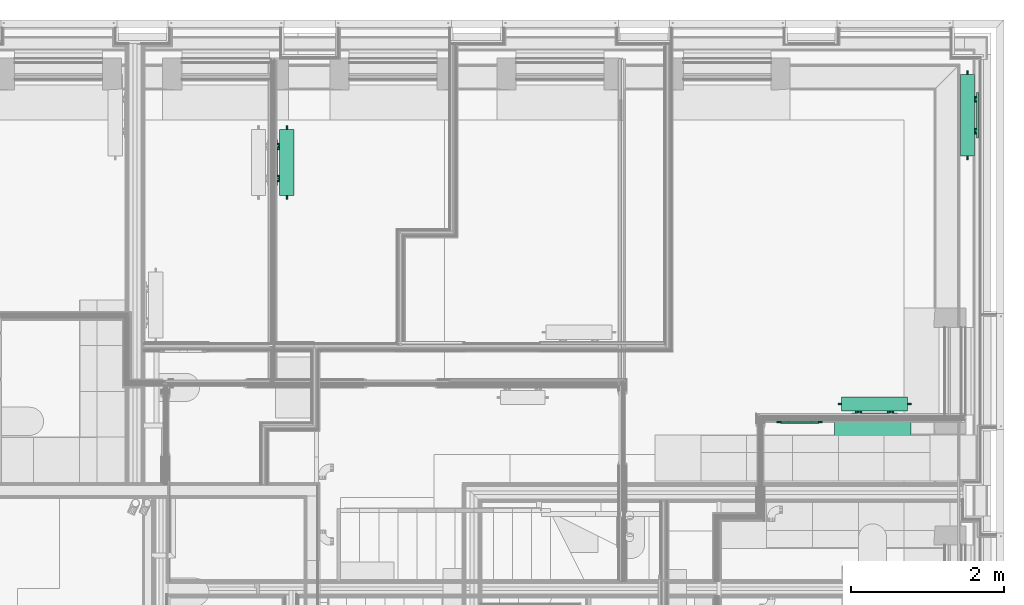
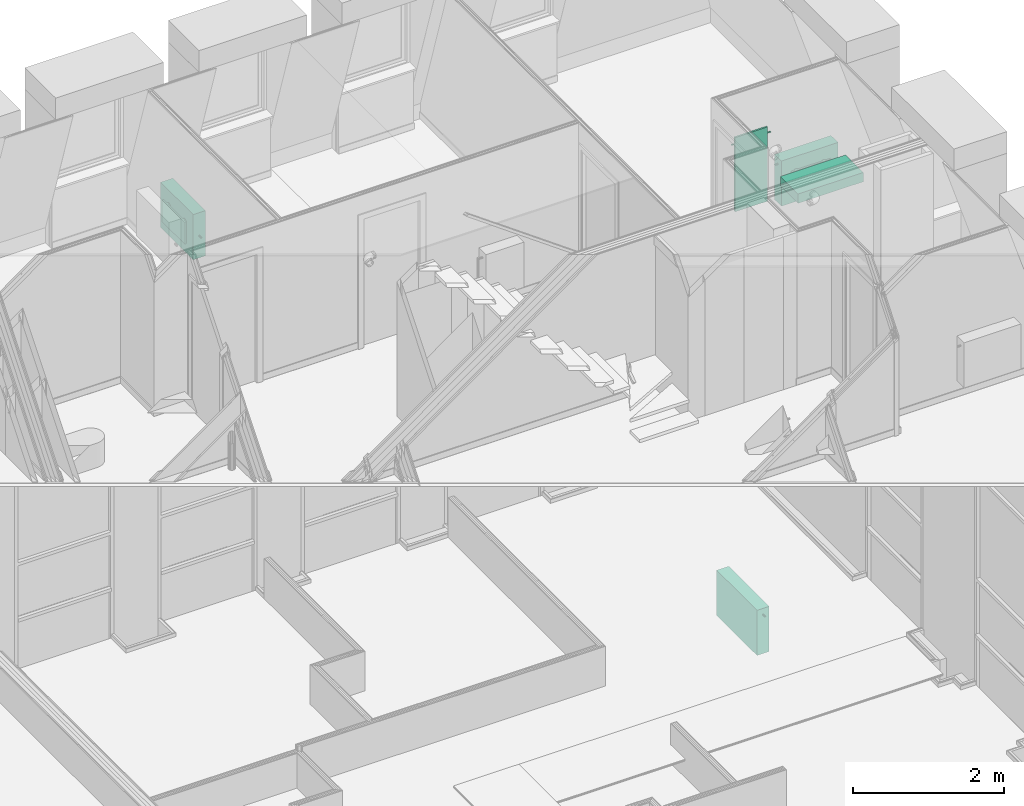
# One storey, part 154 of 169: 5 flow terminals.
"""IFC2X3 building model written with IfcOpenShell, lengths in metres."""

from ifc_helpers import new_model, entity, si_unit, converted_unit, derived_unit, money_unit, direction, frame, origin_with_axes, place, context, subcontext, project, spatial, open_shell, faceted_brep, surface_model, material, type_object, element, save


model = new_model("IFC2X3")

# Units and contexts
model_context = context("Model", 3, precision=1e-05, world=origin_with_axes(), true_north=direction((0.0, 1.0)))
body_context = subcontext(model_context, "Body", "Model", "MODEL_VIEW", scale=1.0)
ifc_project = project(units=[si_unit("LENGTHUNIT", "METRE"), si_unit("AREAUNIT", "SQUARE_METRE"), si_unit("VOLUMEUNIT", "CUBIC_METRE"), si_unit("ABSORBEDDOSEUNIT", "GRAY"), si_unit("AMOUNTOFSUBSTANCEUNIT", "MOLE"), si_unit("DOSEEQUIVALENTUNIT", "SIEVERT"), si_unit("ELECTRICCAPACITANCEUNIT", "FARAD"), si_unit("ELECTRICCHARGEUNIT", "COULOMB"), si_unit("ELECTRICCONDUCTANCEUNIT", "SIEMENS"), si_unit("ELECTRICCURRENTUNIT", "AMPERE"), si_unit("ELECTRICRESISTANCEUNIT", "OHM"), si_unit("ELECTRICVOLTAGEUNIT", "VOLT"), si_unit("ENERGYUNIT", "JOULE"), si_unit("FORCEUNIT", "NEWTON"), si_unit("FREQUENCYUNIT", "HERTZ"), si_unit("ILLUMINANCEUNIT", "LUX"), si_unit("INDUCTANCEUNIT", "HENRY"), si_unit("LUMINOUSFLUXUNIT", "LUMEN"), si_unit("LUMINOUSINTENSITYUNIT", "CANDELA"), si_unit("MAGNETICFLUXDENSITYUNIT", "TESLA"), si_unit("MAGNETICFLUXUNIT", "WEBER"), si_unit("MASSUNIT", "GRAM"), converted_unit("PLANEANGLEUNIT", "degree", entity("IfcReal", 0.0174532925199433), si_unit("PLANEANGLEUNIT", "RADIAN"), dimensions=[0, 0, 0, 0, 0, 0, 0]), si_unit("POWERUNIT", "WATT"), si_unit("PRESSUREUNIT", "PASCAL"), si_unit("RADIOACTIVITYUNIT", "BECQUEREL"), si_unit("SOLIDANGLEUNIT", "STERADIAN"), si_unit("THERMODYNAMICTEMPERATUREUNIT", "KELVIN"), si_unit("TIMEUNIT", "SECOND"), derived_unit("ACCELERATIONUNIT", [(si_unit("LENGTHUNIT", "METRE"), 1), (si_unit("TIMEUNIT", "SECOND"), -2)]), derived_unit("ANGULARVELOCITYUNIT", [(converted_unit("PLANEANGLEUNIT", "degree", entity("IfcReal", 0.0174532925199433), si_unit("PLANEANGLEUNIT", "RADIAN"), dimensions=[0, 0, 0, 0, 0, 0, 0]), 1), (si_unit("TIMEUNIT", "SECOND"), -1)]), derived_unit("CURVATUREUNIT", [(converted_unit("PLANEANGLEUNIT", "degree", entity("IfcReal", 0.0174532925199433), si_unit("PLANEANGLEUNIT", "RADIAN"), dimensions=[0, 0, 0, 0, 0, 0, 0]), 1), (si_unit("LENGTHUNIT", "METRE"), -1)]), derived_unit("DYNAMICVISCOSITYUNIT", [(si_unit("PRESSUREUNIT", "PASCAL"), 1), (si_unit("TIMEUNIT", "SECOND"), 1)]), derived_unit("HEATFLUXDENSITYUNIT", [(si_unit("POWERUNIT", "WATT"), 1), (si_unit("LENGTHUNIT", "METRE"), -2)]), derived_unit("HEATINGVALUEUNIT", [(si_unit("ENERGYUNIT", "JOULE"), 1), (si_unit("MASSUNIT", "GRAM"), -1)]), derived_unit("INTEGERCOUNTRATEUNIT", [(si_unit("TIMEUNIT", "SECOND"), -1)]), derived_unit("IONCONCENTRATIONUNIT", [(si_unit("MASSUNIT", "GRAM"), 1), (si_unit("VOLUMEUNIT", "CUBIC_METRE"), -1)]), derived_unit("ISOTHERMALMOISTURECAPACITYUNIT", [(si_unit("VOLUMEUNIT", "CUBIC_METRE"), 1), (si_unit("MASSUNIT", "GRAM"), -1)]), derived_unit("KINEMATICVISCOSITYUNIT", [(si_unit("AREAUNIT", "SQUARE_METRE"), 1), (si_unit("TIMEUNIT", "SECOND"), -1)]), derived_unit("LINEARFORCEUNIT", [(si_unit("FORCEUNIT", "NEWTON"), 1), (si_unit("LENGTHUNIT", "METRE"), -1)]), derived_unit("LINEARMOMENTUNIT", [(si_unit("FORCEUNIT", "NEWTON"), 1), (si_unit("LENGTHUNIT", "METRE"), -1)]), derived_unit("LINEARSTIFFNESSUNIT", [(si_unit("FORCEUNIT", "NEWTON"), 1), (si_unit("LENGTHUNIT", "METRE"), -1)]), derived_unit("LINEARVELOCITYUNIT", [(si_unit("LENGTHUNIT", "METRE"), 1), (si_unit("TIMEUNIT", "SECOND"), -1)]), derived_unit("LUMINOUSINTENSITYDISTRIBUTIONUNIT", [(si_unit("LUMINOUSINTENSITYUNIT", "CANDELA"), 1), (si_unit("LUMINOUSFLUXUNIT", "LUMEN"), -1)]), derived_unit("MASSDENSITYUNIT", [(si_unit("MASSUNIT", "GRAM"), 1), (si_unit("VOLUMEUNIT", "CUBIC_METRE"), -1)]), derived_unit("MASSFLOWRATEUNIT", [(si_unit("MASSUNIT", "GRAM"), 1), (si_unit("TIMEUNIT", "SECOND"), -1)]), derived_unit("MASSPERLENGTHUNIT", [(si_unit("MASSUNIT", "GRAM"), 1), (si_unit("LENGTHUNIT", "METRE"), -1)]), derived_unit("MODULUSOFELASTICITYUNIT", [(si_unit("FORCEUNIT", "NEWTON"), 1), (si_unit("AREAUNIT", "SQUARE_METRE"), -1)]), derived_unit("MODULUSOFLINEARSUBGRADEREACTIONUNIT", [(si_unit("FORCEUNIT", "NEWTON"), 1), (si_unit("LENGTHUNIT", "METRE"), -2)]), derived_unit("MODULUSOFROTATIONALSUBGRADEREACTIONUNIT", [(si_unit("FORCEUNIT", "NEWTON"), 1), (si_unit("LENGTHUNIT", "METRE"), 1)]), derived_unit("MODULUSOFSUBGRADEREACTIONUNIT", [(si_unit("FORCEUNIT", "NEWTON"), 1), (si_unit("VOLUMEUNIT", "CUBIC_METRE"), -1)]), derived_unit("MOISTUREDIFFUSIVITYUNIT", [(si_unit("VOLUMEUNIT", "CUBIC_METRE"), 1), (si_unit("TIMEUNIT", "SECOND"), -1)]), derived_unit("MOLECULARWEIGHTUNIT", [(si_unit("MASSUNIT", "GRAM"), 1), (si_unit("AMOUNTOFSUBSTANCEUNIT", "MOLE"), -1)]), derived_unit("PLANARFORCEUNIT", [(si_unit("FORCEUNIT", "NEWTON"), 1), (si_unit("LENGTHUNIT", "METRE"), -2)]), derived_unit("ROTATIONALFREQUENCYUNIT", [(si_unit("TIMEUNIT", "SECOND"), -1)]), derived_unit("ROTATIONALMASSUNIT", [(si_unit("MASSUNIT", "GRAM"), 1), (si_unit("LENGTHUNIT", "METRE"), 2)]), derived_unit("ROTATIONALSTIFFNESSUNIT", [(si_unit("FORCEUNIT", "NEWTON"), 1), (si_unit("LENGTHUNIT", "METRE"), 1), (converted_unit("PLANEANGLEUNIT", "degree", entity("IfcReal", 0.0174532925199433), si_unit("PLANEANGLEUNIT", "RADIAN"), dimensions=[0, 0, 0, 0, 0, 0, 0]), -1)]), derived_unit("SECTIONAREAINTEGRALUNIT", [(si_unit("LENGTHUNIT", "METRE"), 5)]), derived_unit("SECTIONMODULUSUNIT", [(si_unit("LENGTHUNIT", "METRE"), 3)]), derived_unit("SHEARMODULUSUNIT", [(si_unit("FORCEUNIT", "NEWTON"), 1), (si_unit("AREAUNIT", "SQUARE_METRE"), -1)]), derived_unit("SOUNDPOWERUNIT", [(si_unit("ENERGYUNIT", "JOULE"), 1), (si_unit("TIMEUNIT", "SECOND"), -1)]), derived_unit("SPECIFICHEATCAPACITYUNIT", [(si_unit("FORCEUNIT", "NEWTON"), 1), (si_unit("MASSUNIT", "GRAM"), -1), (si_unit("THERMODYNAMICTEMPERATUREUNIT", "KELVIN"), -1)]), derived_unit("TEMPERATUREGRADIENTUNIT", [(si_unit("THERMODYNAMICTEMPERATUREUNIT", "KELVIN"), 1), (si_unit("LENGTHUNIT", "METRE"), -1)]), derived_unit("THERMALADMITTANCEUNIT", [(si_unit("POWERUNIT", "WATT"), 1), (si_unit("AREAUNIT", "SQUARE_METRE"), -1), (si_unit("THERMODYNAMICTEMPERATUREUNIT", "KELVIN"), -1)]), derived_unit("THERMALCONDUCTANCEUNIT", [(si_unit("POWERUNIT", "WATT"), 1), (si_unit("LENGTHUNIT", "METRE"), -1), (si_unit("THERMODYNAMICTEMPERATUREUNIT", "KELVIN"), -1)]), derived_unit("THERMALEXPANSIONCOEFFICIENTUNIT", [(si_unit("THERMODYNAMICTEMPERATUREUNIT", "KELVIN"), -1)]), derived_unit("THERMALRESISTANCEUNIT", [(si_unit("AREAUNIT", "SQUARE_METRE"), 1), (si_unit("POWERUNIT", "WATT"), -1)]), derived_unit("THERMALTRANSMITTANCEUNIT", [(si_unit("POWERUNIT", "WATT"), 1), (si_unit("AREAUNIT", "SQUARE_METRE"), -1), (si_unit("THERMODYNAMICTEMPERATUREUNIT", "KELVIN"), -1)]), derived_unit("TORQUEUNIT", [(si_unit("FORCEUNIT", "NEWTON"), 1), (si_unit("LENGTHUNIT", "METRE"), 1)]), derived_unit("VAPORPERMEABILITYUNIT", [(si_unit("MASSUNIT", "GRAM"), 1), (si_unit("TIMEUNIT", "SECOND"), -1)]), derived_unit("VOLUMETRICFLOWRATEUNIT", [(si_unit("VOLUMEUNIT", "CUBIC_METRE"), 1), (si_unit("TIMEUNIT", "SECOND"), -1)]), derived_unit("WARPINGCONSTANTUNIT", [(si_unit("LENGTHUNIT", "METRE"), 6)]), derived_unit("WARPINGMOMENTUNIT", [(si_unit("FORCEUNIT", "NEWTON"), 1), (si_unit("LENGTHUNIT", "METRE"), 2)]), money_unit("GBP")], contexts=[model_context])

# Site, building, storey, space
site_placement = place(None, origin_with_axes())
site = spatial("IfcSite", under=ifc_project, at=site_placement, Name="Site", CompositionType="ELEMENT")
building_placement = place(site_placement, origin_with_axes())
building = spatial("IfcBuilding", under=site, at=building_placement, Name="Building01", CompositionType="ELEMENT")
storey_placement = place(building_placement, frame((0.0, 0.0, 5.15), z_axis=(0.0, 0.0, 1.0), x_axis=(1.0, 0.0, 0.0)))
storey = spatial("IfcBuildingStorey", under=building, at=storey_placement, Name="1F", CompositionType="ELEMENT", Elevation=5.15)
space_1_placement = place(storey_placement, frame((22.624794, 8.82, 0.017975), z_axis=(0.0, 0.0, 1.0), x_axis=(1.0, 0.0, 0.0)))
space_1 = spatial("IfcSpace", under=storey, at=space_1_placement, Name="k/d/l", CompositionType="ELEMENT", InteriorOrExteriorSpace="NOTDEFINED")

# Flow terminal
ifc_material = material(Name="M_BSUK_Ventilation")
space_heater_type_1 = type_object("IfcSpaceHeaterType", Name="M-BmvRadiatorpanel-Panel", PredefinedType="NOTDEFINED")
flow_terminal_1_placement = place(storey_placement, frame((26.50175, 14.187, 0.665), z_axis=(0.0, 0.0, 1.0), x_axis=(0.0, -1.0, 0.0)))
element("IfcFlowTerminal", 1, at=flow_terminal_1_placement, inside=space_1, type_object=space_heater_type_1, material=ifc_material, Name="M-BmvRadiatorpanel-Panel", ObjectType="M-BmvRadiatorpanel-Panel", context=body_context, shape_type="SurfaceModel", body=[
    surface_model("IfcShellBasedSurfaceModel", [(1.069, -0.0925, 0.365), (1.069, 0.0925, 0.365), (0.0, 0.0925, 0.365), (0.0, -0.0925, 0.365), (1.069, -0.0925, -0.365), (1.069, 0.0925, -0.365), (0.0, -0.0925, -0.365), (0.0, 0.0925, -0.365), (0.2345, 0.12025, 0.175), (0.8345, 0.12025, 0.175), (0.8345, 0.14525, 0.175), (0.2345, 0.14525, 0.175), (0.8345, 0.14525, -0.175), (0.2345, 0.14525, -0.175), (0.8345, 0.12025, -0.175), (0.2345, 0.12025, -0.175), (0.3245, 0.0925, 0.0775), (0.3245, 0.12025, 0.0775), (0.341721, 0.12025, 0.080925), (0.341721, 0.0925, 0.080925), (0.35632, 0.12025, 0.09068), (0.35632, 0.0925, 0.09068), (0.366075, 0.12025, 0.105279), (0.366075, 0.0925, 0.105279), (0.3695, 0.12025, 0.1225), (0.3695, 0.0925, 0.1225), (0.366075, 0.12025, 0.139721), (0.366075, 0.0925, 0.139721), (0.35632, 0.12025, 0.15432), (0.35632, 0.0925, 0.15432), (0.341721, 0.12025, 0.164075), (0.341721, 0.0925, 0.164075), (0.3245, 0.12025, 0.1675), (0.3245, 0.0925, 0.1675), (0.307279, 0.12025, 0.164075), (0.307279, 0.0925, 0.164075), (0.29268, 0.12025, 0.15432), (0.29268, 0.0925, 0.15432), (0.282925, 0.12025, 0.139721), (0.282925, 0.0925, 0.139721), (0.2795, 0.12025, 0.1225), (0.2795, 0.0925, 0.1225), (0.282925, 0.12025, 0.105279), (0.282925, 0.0925, 0.105279), (0.29268, 0.12025, 0.09068), (0.29268, 0.0925, 0.09068), (0.307279, 0.12025, 0.080925), (0.307279, 0.0925, 0.080925), (0.7445, 0.0925, 0.0775), (0.7445, 0.12025, 0.0775), (0.761721, 0.12025, 0.080925), (0.761721, 0.0925, 0.080925), (0.77632, 0.12025, 0.09068), (0.77632, 0.0925, 0.09068), (0.786075, 0.12025, 0.105279), (0.786075, 0.0925, 0.105279), (0.7895, 0.12025, 0.1225), (0.7895, 0.0925, 0.1225), (0.786075, 0.12025, 0.139721), (0.786075, 0.0925, 0.139721), (0.77632, 0.12025, 0.15432), (0.77632, 0.0925, 0.15432), (0.761721, 0.12025, 0.164075), (0.761721, 0.0925, 0.164075), (0.7445, 0.12025, 0.1675), (0.7445, 0.0925, 0.1675), (0.727279, 0.12025, 0.164075), (0.727279, 0.0925, 0.164075), (0.71268, 0.12025, 0.15432), (0.71268, 0.0925, 0.15432), (0.702925, 0.12025, 0.139721), (0.702925, 0.0925, 0.139721), (0.6995, 0.12025, 0.1225), (0.6995, 0.0925, 0.1225), (0.702925, 0.12025, 0.105279), (0.702925, 0.0925, 0.105279), (0.71268, 0.12025, 0.09068), (0.71268, 0.0925, 0.09068), (0.727279, 0.12025, 0.080925), (0.727279, 0.0925, 0.080925), (-0.05, 0.0, -0.0225), (0.0, 0.0, -0.0225), (0.0, -0.004784, -0.021548), (-0.05, -0.004784, -0.021548), (0.0, -0.008839, -0.018839), (-0.05, -0.008839, -0.018839), (0.0, -0.011548, -0.014784), (-0.05, -0.011548, -0.014784), (0.0, -0.0125, -0.01), (-0.05, -0.0125, -0.01), (0.0, -0.011548, -0.005216), (-0.05, -0.011548, -0.005216), (0.0, -0.008839, -0.001161), (-0.05, -0.008839, -0.001161), (0.0, -0.004784, 0.001548), (-0.05, -0.004784, 0.001548), (0.0, 0.0, 0.0025), (-0.05, 0.0, 0.0025), (0.0, 0.004784, 0.001548), (-0.05, 0.004784, 0.001548), (0.0, 0.008839, -0.001161), (-0.05, 0.008839, -0.001161), (0.0, 0.011548, -0.005216), (-0.05, 0.011548, -0.005216), (0.0, 0.0125, -0.01), (-0.05, 0.0125, -0.01), (0.0, 0.011548, -0.014784), (-0.05, 0.011548, -0.014784), (0.0, 0.008839, -0.018839), (-0.05, 0.008839, -0.018839), (0.0, 0.004784, -0.021548), (-0.05, 0.004784, -0.021548), (1.119, 0.0, 0.2525), (1.069, 0.0, 0.2525), (1.069, 0.004784, 0.253452), (1.119, 0.004784, 0.253452), (1.069, 0.008839, 0.256161), (1.119, 0.008839, 0.256161), (1.069, 0.011548, 0.260216), (1.119, 0.011548, 0.260216), (1.069, 0.0125, 0.265), (1.119, 0.0125, 0.265), (1.069, 0.011548, 0.269784), (1.119, 0.011548, 0.269784), (1.069, 0.008839, 0.273839), (1.119, 0.008839, 0.273839), (1.069, 0.004784, 0.276548), (1.119, 0.004784, 0.276548), (1.069, 0.0, 0.2775), (1.119, 0.0, 0.2775), (1.069, -0.004784, 0.276548), (1.119, -0.004784, 0.276548), (1.069, -0.008839, 0.273839), (1.119, -0.008839, 0.273839), (1.069, -0.011548, 0.269784), (1.119, -0.011548, 0.269784), (1.069, -0.0125, 0.265), (1.119, -0.0125, 0.265), (1.069, -0.011548, 0.260216), (1.119, -0.011548, 0.260216), (1.069, -0.008839, 0.256161), (1.119, -0.008839, 0.256161), (1.069, -0.004784, 0.253452), (1.119, -0.004784, 0.253452)], [open_shell([[[0, 1, 2, 3]], [[4, 5, 1, 0]], [[6, 7, 5, 4]], [[3, 2, 7, 6]], [[1, 5, 7, 2]], [[3, 6, 4, 0]], [[8, 9, 10, 11]], [[11, 10, 12, 13]], [[13, 12, 14, 15]], [[15, 14, 9, 8]], [[9, 14, 12, 10]], [[11, 13, 15, 8]], [[16, 17, 18, 19]], [[19, 18, 20, 21]], [[21, 20, 22, 23]], [[23, 22, 24, 25]], [[25, 24, 26, 27]], [[27, 26, 28, 29]], [[29, 28, 30, 31]], [[31, 30, 32, 33]], [[33, 32, 34, 35]], [[35, 34, 36, 37]], [[37, 36, 38, 39]], [[39, 38, 40, 41]], [[41, 40, 42, 43]], [[43, 42, 44, 45]], [[45, 44, 46, 47]], [[47, 46, 17, 16]], [[48, 49, 50, 51]], [[51, 50, 52, 53]], [[53, 52, 54, 55]], [[55, 54, 56, 57]], [[57, 56, 58, 59]], [[59, 58, 60, 61]], [[61, 60, 62, 63]], [[63, 62, 64, 65]], [[65, 64, 66, 67]], [[67, 66, 68, 69]], [[69, 68, 70, 71]], [[71, 70, 72, 73]], [[73, 72, 74, 75]], [[75, 74, 76, 77]], [[77, 76, 78, 79]], [[79, 78, 49, 48]], [[80, 81, 82, 83]], [[83, 82, 84, 85]], [[85, 84, 86, 87]], [[87, 86, 88, 89]], [[89, 88, 90, 91]], [[91, 90, 92, 93]], [[93, 92, 94, 95]], [[95, 94, 96, 97]], [[97, 96, 98, 99]], [[99, 98, 100, 101]], [[101, 100, 102, 103]], [[103, 102, 104, 105]], [[105, 104, 106, 107]], [[107, 106, 108, 109]], [[109, 108, 110, 111]], [[111, 110, 81, 80]], [[112, 113, 114, 115]], [[115, 114, 116, 117]], [[117, 116, 118, 119]], [[119, 118, 120, 121]], [[121, 120, 122, 123]], [[123, 122, 124, 125]], [[125, 124, 126, 127]], [[127, 126, 128, 129]], [[129, 128, 130, 131]], [[131, 130, 132, 133]], [[133, 132, 134, 135]], [[135, 134, 136, 137]], [[137, 136, 138, 139]], [[139, 138, 140, 141]], [[141, 140, 142, 143]], [[143, 142, 113, 112]]])]),
])

# Space
space_2_placement = place(storey_placement, frame((16.03844, 8.82, 9.86), z_axis=(0.0, 0.0, 1.0), x_axis=(0.0, -1.0, 0.0)))
space_2 = spatial("IfcSpace", under=storey, at=space_2_placement, Name="23", CompositionType="ELEMENT", InteriorOrExteriorSpace="NOTDEFINED")

# Flow terminals
flow_terminal_2_placement = place(storey_placement, frame((17.585226, 12.601764, 10.495), z_axis=(0.0, 0.0, 1.0), x_axis=(0.0, 1.0, 0.0)))
element("IfcFlowTerminal", 2, at=flow_terminal_2_placement, inside=space_2, type_object=space_heater_type_1, material=ifc_material, Name="M-BmvRadiatorpanel-Panel", ObjectType="M-BmvRadiatorpanel-Panel", context=body_context, shape_type="SurfaceModel", body=[
    surface_model("IfcShellBasedSurfaceModel", [(0.865, -0.0925, 0.365), (0.865, 0.0925, 0.365), (0.0, 0.0925, 0.365), (0.0, -0.0925, 0.365), (0.865, -0.0925, -0.365), (0.865, 0.0925, -0.365), (0.0, -0.0925, -0.365), (0.0, 0.0925, -0.365), (0.1325, 0.12025, 0.175), (0.7325, 0.12025, 0.175), (0.7325, 0.14525, 0.175), (0.1325, 0.14525, 0.175), (0.7325, 0.14525, -0.175), (0.1325, 0.14525, -0.175), (0.7325, 0.12025, -0.175), (0.1325, 0.12025, -0.175), (0.2225, 0.0925, 0.0775), (0.2225, 0.12025, 0.0775), (0.239721, 0.12025, 0.080925), (0.239721, 0.0925, 0.080925), (0.25432, 0.12025, 0.09068), (0.25432, 0.0925, 0.09068), (0.264075, 0.12025, 0.105279), (0.264075, 0.0925, 0.105279), (0.2675, 0.12025, 0.1225), (0.2675, 0.0925, 0.1225), (0.264075, 0.12025, 0.139721), (0.264075, 0.0925, 0.139721), (0.25432, 0.12025, 0.15432), (0.25432, 0.0925, 0.15432), (0.239721, 0.12025, 0.164075), (0.239721, 0.0925, 0.164075), (0.2225, 0.12025, 0.1675), (0.2225, 0.0925, 0.1675), (0.205279, 0.12025, 0.164075), (0.205279, 0.0925, 0.164075), (0.19068, 0.12025, 0.15432), (0.19068, 0.0925, 0.15432), (0.180925, 0.12025, 0.139721), (0.180925, 0.0925, 0.139721), (0.1775, 0.12025, 0.1225), (0.1775, 0.0925, 0.1225), (0.180925, 0.12025, 0.105279), (0.180925, 0.0925, 0.105279), (0.19068, 0.12025, 0.09068), (0.19068, 0.0925, 0.09068), (0.205279, 0.12025, 0.080925), (0.205279, 0.0925, 0.080925), (0.6425, 0.0925, 0.0775), (0.6425, 0.12025, 0.0775), (0.659721, 0.12025, 0.080925), (0.659721, 0.0925, 0.080925), (0.67432, 0.12025, 0.09068), (0.67432, 0.0925, 0.09068), (0.684075, 0.12025, 0.105279), (0.684075, 0.0925, 0.105279), (0.6875, 0.12025, 0.1225), (0.6875, 0.0925, 0.1225), (0.684075, 0.12025, 0.139721), (0.684075, 0.0925, 0.139721), (0.67432, 0.12025, 0.15432), (0.67432, 0.0925, 0.15432), (0.659721, 0.12025, 0.164075), (0.659721, 0.0925, 0.164075), (0.6425, 0.12025, 0.1675), (0.6425, 0.0925, 0.1675), (0.625279, 0.12025, 0.164075), (0.625279, 0.0925, 0.164075), (0.61068, 0.12025, 0.15432), (0.61068, 0.0925, 0.15432), (0.600925, 0.12025, 0.139721), (0.600925, 0.0925, 0.139721), (0.5975, 0.12025, 0.1225), (0.5975, 0.0925, 0.1225), (0.600925, 0.12025, 0.105279), (0.600925, 0.0925, 0.105279), (0.61068, 0.12025, 0.09068), (0.61068, 0.0925, 0.09068), (0.625279, 0.12025, 0.080925), (0.625279, 0.0925, 0.080925), (-0.05, 0.0, -0.0225), (0.0, 0.0, -0.0225), (0.0, -0.004784, -0.021548), (-0.05, -0.004784, -0.021548), (0.0, -0.008839, -0.018839), (-0.05, -0.008839, -0.018839), (0.0, -0.011548, -0.014784), (-0.05, -0.011548, -0.014784), (0.0, -0.0125, -0.01), (-0.05, -0.0125, -0.01), (0.0, -0.011548, -0.005216), (-0.05, -0.011548, -0.005216), (0.0, -0.008839, -0.001161), (-0.05, -0.008839, -0.001161), (0.0, -0.004784, 0.001548), (-0.05, -0.004784, 0.001548), (0.0, 0.0, 0.0025), (-0.05, 0.0, 0.0025), (0.0, 0.004784, 0.001548), (-0.05, 0.004784, 0.001548), (0.0, 0.008839, -0.001161), (-0.05, 0.008839, -0.001161), (0.0, 0.011548, -0.005216), (-0.05, 0.011548, -0.005216), (0.0, 0.0125, -0.01), (-0.05, 0.0125, -0.01), (0.0, 0.011548, -0.014784), (-0.05, 0.011548, -0.014784), (0.0, 0.008839, -0.018839), (-0.05, 0.008839, -0.018839), (0.0, 0.004784, -0.021548), (-0.05, 0.004784, -0.021548), (0.915, 0.0, 0.2525), (0.865, 0.0, 0.2525), (0.865, 0.004784, 0.253452), (0.915, 0.004784, 0.253452), (0.865, 0.008839, 0.256161), (0.915, 0.008839, 0.256161), (0.865, 0.011548, 0.260216), (0.915, 0.011548, 0.260216), (0.865, 0.0125, 0.265), (0.915, 0.0125, 0.265), (0.865, 0.011548, 0.269784), (0.915, 0.011548, 0.269784), (0.865, 0.008839, 0.273839), (0.915, 0.008839, 0.273839), (0.865, 0.004784, 0.276548), (0.915, 0.004784, 0.276548), (0.865, 0.0, 0.2775), (0.915, 0.0, 0.2775), (0.865, -0.004784, 0.276548), (0.915, -0.004784, 0.276548), (0.865, -0.008839, 0.273839), (0.915, -0.008839, 0.273839), (0.865, -0.011548, 0.269784), (0.915, -0.011548, 0.269784), (0.865, -0.0125, 0.265), (0.915, -0.0125, 0.265), (0.865, -0.011548, 0.260216), (0.915, -0.011548, 0.260216), (0.865, -0.008839, 0.256161), (0.915, -0.008839, 0.256161), (0.865, -0.004784, 0.253452), (0.915, -0.004784, 0.253452)], [open_shell([[[0, 1, 2, 3]], [[4, 5, 1, 0]], [[6, 7, 5, 4]], [[3, 2, 7, 6]], [[1, 5, 7, 2]], [[3, 6, 4, 0]], [[8, 9, 10, 11]], [[11, 10, 12, 13]], [[13, 12, 14, 15]], [[15, 14, 9, 8]], [[9, 14, 12, 10]], [[11, 13, 15, 8]], [[16, 17, 18, 19]], [[19, 18, 20, 21]], [[21, 20, 22, 23]], [[23, 22, 24, 25]], [[25, 24, 26, 27]], [[27, 26, 28, 29]], [[29, 28, 30, 31]], [[31, 30, 32, 33]], [[33, 32, 34, 35]], [[35, 34, 36, 37]], [[37, 36, 38, 39]], [[39, 38, 40, 41]], [[41, 40, 42, 43]], [[43, 42, 44, 45]], [[45, 44, 46, 47]], [[47, 46, 17, 16]], [[48, 49, 50, 51]], [[51, 50, 52, 53]], [[53, 52, 54, 55]], [[55, 54, 56, 57]], [[57, 56, 58, 59]], [[59, 58, 60, 61]], [[61, 60, 62, 63]], [[63, 62, 64, 65]], [[65, 64, 66, 67]], [[67, 66, 68, 69]], [[69, 68, 70, 71]], [[71, 70, 72, 73]], [[73, 72, 74, 75]], [[75, 74, 76, 77]], [[77, 76, 78, 79]], [[79, 78, 49, 48]], [[80, 81, 82, 83]], [[83, 82, 84, 85]], [[85, 84, 86, 87]], [[87, 86, 88, 89]], [[89, 88, 90, 91]], [[91, 90, 92, 93]], [[93, 92, 94, 95]], [[95, 94, 96, 97]], [[97, 96, 98, 99]], [[99, 98, 100, 101]], [[101, 100, 102, 103]], [[103, 102, 104, 105]], [[105, 104, 106, 107]], [[107, 106, 108, 109]], [[109, 108, 110, 111]], [[111, 110, 81, 80]], [[112, 113, 114, 115]], [[115, 114, 116, 117]], [[117, 116, 118, 119]], [[119, 118, 120, 121]], [[121, 120, 122, 123]], [[123, 122, 124, 125]], [[125, 124, 126, 127]], [[127, 126, 128, 129]], [[129, 128, 130, 131]], [[131, 130, 132, 133]], [[133, 132, 134, 135]], [[135, 134, 136, 137]], [[137, 136, 138, 139]], [[139, 138, 140, 141]], [[141, 140, 142, 143]], [[143, 142, 113, 112]]])]),
])
flow_terminal_3_placement = place(storey_placement, frame((25.717389, 9.870165, 10.495), z_axis=(0.0, 0.0, 1.0), x_axis=(-1.0, 0.0, 0.0)))
element("IfcFlowTerminal", 3, at=flow_terminal_3_placement, inside=space_2, type_object=space_heater_type_1, material=ifc_material, Name="M-BmvRadiatorpanel-Panel", ObjectType="M-BmvRadiatorpanel-Panel", context=body_context, shape_type="SurfaceModel", body=[
    surface_model("IfcShellBasedSurfaceModel", [(0.865, -0.0925, 0.365), (0.865, 0.0925, 0.365), (0.0, 0.0925, 0.365), (0.0, -0.0925, 0.365), (0.865, -0.0925, -0.365), (0.865, 0.0925, -0.365), (0.0, -0.0925, -0.365), (0.0, 0.0925, -0.365), (0.1325, 0.12025, 0.175), (0.7325, 0.12025, 0.175), (0.7325, 0.14525, 0.175), (0.1325, 0.14525, 0.175), (0.7325, 0.14525, -0.175), (0.1325, 0.14525, -0.175), (0.7325, 0.12025, -0.175), (0.1325, 0.12025, -0.175), (0.2225, 0.0925, 0.0775), (0.2225, 0.12025, 0.0775), (0.239721, 0.12025, 0.080925), (0.239721, 0.0925, 0.080925), (0.25432, 0.12025, 0.09068), (0.25432, 0.0925, 0.09068), (0.264075, 0.12025, 0.105279), (0.264075, 0.0925, 0.105279), (0.2675, 0.12025, 0.1225), (0.2675, 0.0925, 0.1225), (0.264075, 0.12025, 0.139721), (0.264075, 0.0925, 0.139721), (0.25432, 0.12025, 0.15432), (0.25432, 0.0925, 0.15432), (0.239721, 0.12025, 0.164075), (0.239721, 0.0925, 0.164075), (0.2225, 0.12025, 0.1675), (0.2225, 0.0925, 0.1675), (0.205279, 0.12025, 0.164075), (0.205279, 0.0925, 0.164075), (0.19068, 0.12025, 0.15432), (0.19068, 0.0925, 0.15432), (0.180925, 0.12025, 0.139721), (0.180925, 0.0925, 0.139721), (0.1775, 0.12025, 0.1225), (0.1775, 0.0925, 0.1225), (0.180925, 0.12025, 0.105279), (0.180925, 0.0925, 0.105279), (0.19068, 0.12025, 0.09068), (0.19068, 0.0925, 0.09068), (0.205279, 0.12025, 0.080925), (0.205279, 0.0925, 0.080925), (0.6425, 0.0925, 0.0775), (0.6425, 0.12025, 0.0775), (0.659721, 0.12025, 0.080925), (0.659721, 0.0925, 0.080925), (0.67432, 0.12025, 0.09068), (0.67432, 0.0925, 0.09068), (0.684075, 0.12025, 0.105279), (0.684075, 0.0925, 0.105279), (0.6875, 0.12025, 0.1225), (0.6875, 0.0925, 0.1225), (0.684075, 0.12025, 0.139721), (0.684075, 0.0925, 0.139721), (0.67432, 0.12025, 0.15432), (0.67432, 0.0925, 0.15432), (0.659721, 0.12025, 0.164075), (0.659721, 0.0925, 0.164075), (0.6425, 0.12025, 0.1675), (0.6425, 0.0925, 0.1675), (0.625279, 0.12025, 0.164075), (0.625279, 0.0925, 0.164075), (0.61068, 0.12025, 0.15432), (0.61068, 0.0925, 0.15432), (0.600925, 0.12025, 0.139721), (0.600925, 0.0925, 0.139721), (0.5975, 0.12025, 0.1225), (0.5975, 0.0925, 0.1225), (0.600925, 0.12025, 0.105279), (0.600925, 0.0925, 0.105279), (0.61068, 0.12025, 0.09068), (0.61068, 0.0925, 0.09068), (0.625279, 0.12025, 0.080925), (0.625279, 0.0925, 0.080925), (-0.05, 0.0, -0.0225), (0.0, 0.0, -0.0225), (0.0, -0.004784, -0.021548), (-0.05, -0.004784, -0.021548), (0.0, -0.008839, -0.018839), (-0.05, -0.008839, -0.018839), (0.0, -0.011548, -0.014784), (-0.05, -0.011548, -0.014784), (0.0, -0.0125, -0.01), (-0.05, -0.0125, -0.01), (0.0, -0.011548, -0.005216), (-0.05, -0.011548, -0.005216), (0.0, -0.008839, -0.001161), (-0.05, -0.008839, -0.001161), (0.0, -0.004784, 0.001548), (-0.05, -0.004784, 0.001548), (0.0, 0.0, 0.0025), (-0.05, 0.0, 0.0025), (0.0, 0.004784, 0.001548), (-0.05, 0.004784, 0.001548), (0.0, 0.008839, -0.001161), (-0.05, 0.008839, -0.001161), (0.0, 0.011548, -0.005216), (-0.05, 0.011548, -0.005216), (0.0, 0.0125, -0.01), (-0.05, 0.0125, -0.01), (0.0, 0.011548, -0.014784), (-0.05, 0.011548, -0.014784), (0.0, 0.008839, -0.018839), (-0.05, 0.008839, -0.018839), (0.0, 0.004784, -0.021548), (-0.05, 0.004784, -0.021548), (0.915, 0.0, 0.2525), (0.865, 0.0, 0.2525), (0.865, 0.004784, 0.253452), (0.915, 0.004784, 0.253452), (0.865, 0.008839, 0.256161), (0.915, 0.008839, 0.256161), (0.865, 0.011548, 0.260216), (0.915, 0.011548, 0.260216), (0.865, 0.0125, 0.265), (0.915, 0.0125, 0.265), (0.865, 0.011548, 0.269784), (0.915, 0.011548, 0.269784), (0.865, 0.008839, 0.273839), (0.915, 0.008839, 0.273839), (0.865, 0.004784, 0.276548), (0.915, 0.004784, 0.276548), (0.865, 0.0, 0.2775), (0.915, 0.0, 0.2775), (0.865, -0.004784, 0.276548), (0.915, -0.004784, 0.276548), (0.865, -0.008839, 0.273839), (0.915, -0.008839, 0.273839), (0.865, -0.011548, 0.269784), (0.915, -0.011548, 0.269784), (0.865, -0.0125, 0.265), (0.915, -0.0125, 0.265), (0.865, -0.011548, 0.260216), (0.915, -0.011548, 0.260216), (0.865, -0.008839, 0.256161), (0.915, -0.008839, 0.256161), (0.865, -0.004784, 0.253452), (0.915, -0.004784, 0.253452)], [open_shell([[[0, 1, 2, 3]], [[4, 5, 1, 0]], [[6, 7, 5, 4]], [[3, 2, 7, 6]], [[1, 5, 7, 2]], [[3, 6, 4, 0]], [[8, 9, 10, 11]], [[11, 10, 12, 13]], [[13, 12, 14, 15]], [[15, 14, 9, 8]], [[9, 14, 12, 10]], [[11, 13, 15, 8]], [[16, 17, 18, 19]], [[19, 18, 20, 21]], [[21, 20, 22, 23]], [[23, 22, 24, 25]], [[25, 24, 26, 27]], [[27, 26, 28, 29]], [[29, 28, 30, 31]], [[31, 30, 32, 33]], [[33, 32, 34, 35]], [[35, 34, 36, 37]], [[37, 36, 38, 39]], [[39, 38, 40, 41]], [[41, 40, 42, 43]], [[43, 42, 44, 45]], [[45, 44, 46, 47]], [[47, 46, 17, 16]], [[48, 49, 50, 51]], [[51, 50, 52, 53]], [[53, 52, 54, 55]], [[55, 54, 56, 57]], [[57, 56, 58, 59]], [[59, 58, 60, 61]], [[61, 60, 62, 63]], [[63, 62, 64, 65]], [[65, 64, 66, 67]], [[67, 66, 68, 69]], [[69, 68, 70, 71]], [[71, 70, 72, 73]], [[73, 72, 74, 75]], [[75, 74, 76, 77]], [[77, 76, 78, 79]], [[79, 78, 49, 48]], [[80, 81, 82, 83]], [[83, 82, 84, 85]], [[85, 84, 86, 87]], [[87, 86, 88, 89]], [[89, 88, 90, 91]], [[91, 90, 92, 93]], [[93, 92, 94, 95]], [[95, 94, 96, 97]], [[97, 96, 98, 99]], [[99, 98, 100, 101]], [[101, 100, 102, 103]], [[103, 102, 104, 105]], [[105, 104, 106, 107]], [[107, 106, 108, 109]], [[109, 108, 110, 111]], [[111, 110, 81, 80]], [[112, 113, 114, 115]], [[115, 114, 116, 117]], [[117, 116, 118, 119]], [[119, 118, 120, 121]], [[121, 120, 122, 123]], [[123, 122, 124, 125]], [[125, 124, 126, 127]], [[127, 126, 128, 129]], [[129, 128, 130, 131]], [[131, 130, 132, 133]], [[133, 132, 134, 135]], [[135, 134, 136, 137]], [[137, 136, 138, 139]], [[139, 138, 140, 141]], [[141, 140, 142, 143]], [[143, 142, 113, 112]]])]),
])

# Space
space_3_placement = place(storey_placement, frame((23.258821, 8.349915, 9.86), z_axis=(0.0, 0.0, 1.0), x_axis=(0.0, -1.0, 0.0)))
space_3 = spatial("IfcSpace", under=storey, at=space_3_placement, Name="ensuite", CompositionType="ELEMENT", InteriorOrExteriorSpace="NOTDEFINED")

# Flow terminals
space_heater_type_2 = type_object("IfcSpaceHeaterType", Name="M-BmvRadiator-Column", PredefinedType="NOTDEFINED")
flow_terminal_4_placement = place(storey_placement, frame((24.052355, 9.632524, 11.015), z_axis=(0.0, 0.0, 1.0), x_axis=(1.0, 0.0, 0.0)))
element("IfcFlowTerminal", 4, at=flow_terminal_4_placement, inside=space_3, type_object=space_heater_type_2, material=ifc_material, Name="M-BmvRadiator-Column", ObjectType="M-BmvRadiator-Column", context=body_context, shape_type="SurfaceModel", body=[
    surface_model("IfcShellBasedSurfaceModel", [(0.0, -0.0125, 0.6), (0.0, -0.0125, -0.6), (0.0, 0.0125, -0.6), (0.0, 0.0125, 0.6), (0.5, -0.0125, 0.6), (0.5, -0.0125, -0.6), (0.5, 0.0125, -0.6), (0.5, 0.0125, 0.6), (0.1, 0.0125, 0.6), (0.1, -0.0125, 0.6), (0.1, -0.0125, -0.6), (0.1, 0.0125, -0.6), (0.2, 0.0125, 0.6), (0.2, -0.0125, 0.6), (0.2, -0.0125, -0.6), (0.2, 0.0125, -0.6), (0.3, 0.0125, 0.6), (0.3, -0.0125, 0.6), (0.3, -0.0125, -0.6), (0.3, 0.0125, -0.6), (0.4, 0.0125, 0.6), (0.4, -0.0125, 0.6), (0.4, -0.0125, -0.6), (0.4, 0.0125, -0.6), (-0.05, 0.0, 0.4825), (0.0, 0.0, 0.4825), (0.0, -0.003827, 0.483261), (-0.05, -0.003827, 0.483261), (0.0, -0.007071, 0.485429), (-0.05, -0.007071, 0.485429), (0.0, -0.009239, 0.488673), (-0.05, -0.009239, 0.488673), (0.0, -0.01, 0.4925), (-0.05, -0.01, 0.4925), (0.0, -0.009239, 0.496327), (-0.05, -0.009239, 0.496327), (0.0, -0.007071, 0.499571), (-0.05, -0.007071, 0.499571), (0.0, -0.003827, 0.501739), (-0.05, -0.003827, 0.501739), (0.0, 0.0, 0.5025), (-0.05, 0.0, 0.5025), (0.0, 0.003827, 0.501739), (-0.05, 0.003827, 0.501739), (0.0, 0.007071, 0.499571), (-0.05, 0.007071, 0.499571), (0.0, 0.009239, 0.496327), (-0.05, 0.009239, 0.496327), (0.0, 0.01, 0.4925), (-0.05, 0.01, 0.4925), (0.0, 0.009239, 0.488673), (-0.05, 0.009239, 0.488673), (0.0, 0.007071, 0.485429), (-0.05, 0.007071, 0.485429), (0.0, 0.003827, 0.483261), (-0.05, 0.003827, 0.483261), (0.55, 0.0, 0.4884), (0.5, 0.0, 0.4884), (0.5, 0.003827, 0.489161), (0.55, 0.003827, 0.489161), (0.5, 0.007071, 0.491329), (0.55, 0.007071, 0.491329), (0.5, 0.009239, 0.494573), (0.55, 0.009239, 0.494573), (0.5, 0.01, 0.4984), (0.55, 0.01, 0.4984), (0.5, 0.009239, 0.502227), (0.55, 0.009239, 0.502227), (0.5, 0.007071, 0.505471), (0.55, 0.007071, 0.505471), (0.5, 0.003827, 0.507639), (0.55, 0.003827, 0.507639), (0.5, 0.0, 0.5084), (0.55, 0.0, 0.5084), (0.5, -0.003827, 0.507639), (0.55, -0.003827, 0.507639), (0.5, -0.007071, 0.505471), (0.55, -0.007071, 0.505471), (0.5, -0.009239, 0.502227), (0.55, -0.009239, 0.502227), (0.5, -0.01, 0.4984), (0.55, -0.01, 0.4984), (0.5, -0.009239, 0.494573), (0.55, -0.009239, 0.494573), (0.5, -0.007071, 0.491329), (0.55, -0.007071, 0.491329), (0.5, -0.003827, 0.489161), (0.55, -0.003827, 0.489161)], [open_shell([[[0, 1, 2, 3]], [[4, 5, 6, 7]], [[8, 3, 0, 9]], [[9, 0, 1, 10]], [[10, 1, 2, 11]], [[11, 2, 3, 8]], [[12, 8, 9, 13]], [[13, 9, 10, 14]], [[14, 10, 11, 15]], [[15, 11, 8, 12]], [[16, 12, 13, 17]], [[17, 13, 14, 18]], [[18, 14, 15, 19]], [[19, 15, 12, 16]], [[20, 16, 17, 21]], [[21, 17, 18, 22]], [[22, 18, 19, 23]], [[23, 19, 16, 20]], [[7, 20, 21, 4]], [[4, 21, 22, 5]], [[5, 22, 23, 6]], [[6, 23, 20, 7]], [[24, 25, 26, 27]], [[27, 26, 28, 29]], [[29, 28, 30, 31]], [[31, 30, 32, 33]], [[33, 32, 34, 35]], [[35, 34, 36, 37]], [[37, 36, 38, 39]], [[39, 38, 40, 41]], [[41, 40, 42, 43]], [[43, 42, 44, 45]], [[45, 44, 46, 47]], [[47, 46, 48, 49]], [[49, 48, 50, 51]], [[51, 50, 52, 53]], [[53, 52, 54, 55]], [[55, 54, 25, 24]], [[56, 57, 58, 59]], [[59, 58, 60, 61]], [[61, 60, 62, 63]], [[63, 62, 64, 65]], [[65, 64, 66, 67]], [[67, 66, 68, 69]], [[69, 68, 70, 71]], [[71, 70, 72, 73]], [[73, 72, 74, 75]], [[75, 74, 76, 77]], [[77, 76, 78, 79]], [[79, 78, 80, 81]], [[81, 80, 82, 83]], [[83, 82, 84, 85]], [[85, 84, 86, 87]], [[87, 86, 57, 56]]])]),
])
sanitary_terminal_type = type_object("IfcSanitaryTerminalType", Name="SHE_A-Sink_47x100", PredefinedType="NOTDEFINED")
flow_terminal_5_placement = place(storey_placement, frame((25.258813, 9.410085, 10.650999), z_axis=(0.0, 0.0, 1.0), x_axis=(0.0, 1.0, 0.0)))
element("IfcFlowTerminal", 5, at=flow_terminal_5_placement, inside=space_2, type_object=sanitary_terminal_type, Name="23", ObjectType="SHE_A-Sink_47x100", context=body_context, shape_type="Brep", body=[
    faceted_brep([(-0.235, 0.5, -0.075), (-0.235, 0.5, 0.075001), (0.235, 0.5, 0.075001), (0.235, 0.5, -0.075), (-0.235, -0.5, -0.075), (-0.235, -0.5, 0.075001), (0.235, -0.5, -0.075), (0.235, -0.5, 0.075001)], [[[0, 1, 2, 3]], [[4, 5, 1, 0]], [[6, 7, 5, 4]], [[3, 2, 7, 6]], [[1, 5, 7, 2]], [[3, 6, 4, 0]]]),
])

save(model, "model.ifc")
